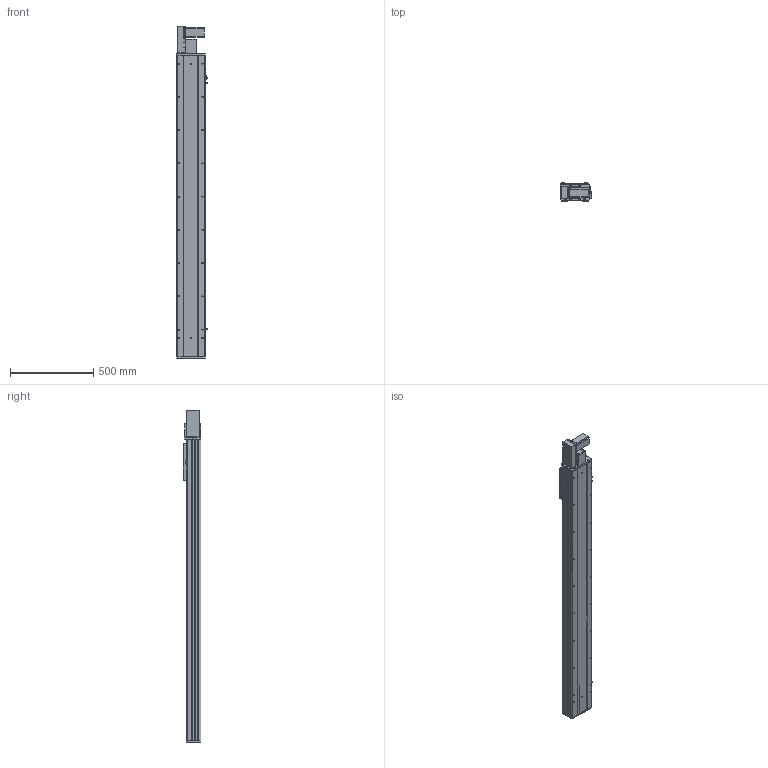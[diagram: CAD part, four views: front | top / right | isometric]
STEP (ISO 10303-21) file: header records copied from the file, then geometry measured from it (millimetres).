
FILE_DESCRIPTION (( 'STEP AP203' ), '1' );
FILE_NAME ('Y170CB-D105-S1500-BL-P400W.STEP', '2020-02-20T01:26:30', ( '微软用户' ), ( '微软中国' ), 'SwSTEP 2.0', 'SolidWorks 2017', '' );
FILE_SCHEMA (( 'CONFIG_CONTROL_DESIGN' ));
Length unit declared in the file: millimetre
Products named in the file (18): san松下电机400不带刹车----; 17B-耜蚾蟀諉啣----; 70CB-詩湍--; Y70俋欶BR----; Y100-135俋离換覜ん--; 70CB-掛极-; Y170CB-陔俋离換覜結え---; --70CB --喘謫眊楊擘啣-; 70B喘謫眊----; 70CB-耜裔啣-; Y1埴倛裔; 70C--詩湍揤踡え-; Y170CB-D105-S1500-BL-P400W; 70CB--耜裔; 70C-雄赽釱-奻-; 0B-萇儂楊擘啣; B-源倛裔啣; 0C--雄赽釱俋欶-170
Assembly tree (21 placements, depth 2):
  Y170CB-D105-S1500-BL-P400W
    B-源倛裔啣
    17B-耜蚾蟀諉啣----
    0B-萇儂楊擘啣
    san松下电机400不带刹车----
    Y70俋欶BR----
    70CB-掛极-
    --70CB --喘謫眊楊擘啣-
    70CB-耜裔啣-  x2
    70C--詩湍揤踡え-  x2
    70CB--耜裔
    70C-雄赽釱-奻-
    0C--雄赽釱俋欶-170
    70CB-詩湍--
    Y100-135俋离換覜ん--  x3
    Y170CB-陔俋离換覜結え---
    70B喘謫眊----
    Y1埴倛裔
Bounding box: 183.5 x 107 x 1997 mm (x, y, z)
Volume: 8505654.8 mm3; surface area: 3058217.1 mm2
Topology: 21 solids, 21 shells, 1031 faces, 2765 edges, 1834 vertices
Faces by surface type: cylinder 543, plane 464, cone 24
Entity records: 32904 total; most frequent: CARTESIAN_POINT 6036, DIRECTION 5350, ORIENTED_EDGE 5012, EDGE_CURVE 2506, AXIS2_PLACEMENT_3D 1964, VERTEX_POINT 1664, LINE 1422, VECTOR 1422
